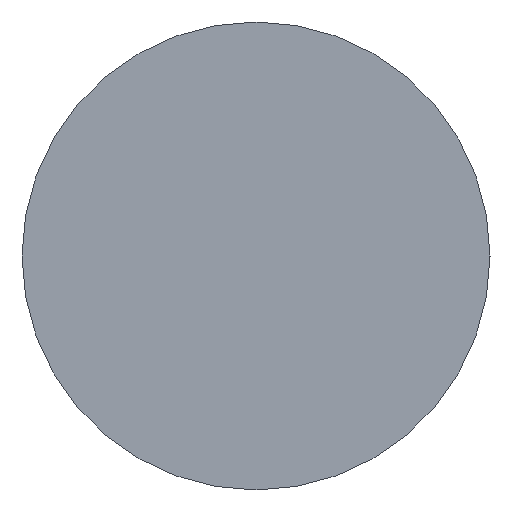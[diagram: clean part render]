
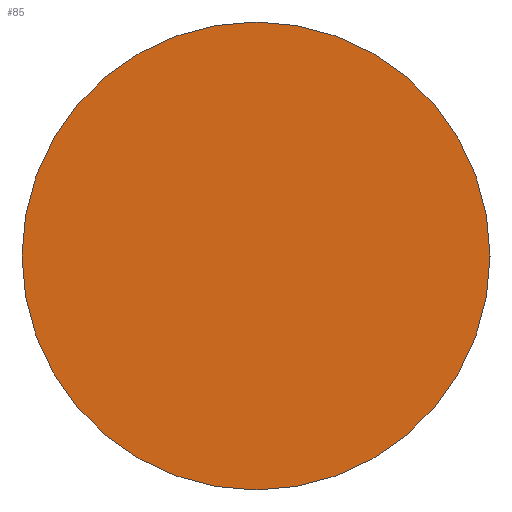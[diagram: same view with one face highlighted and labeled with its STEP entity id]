
A CAD part, left-side view. The second image highlights one B-rep face of the part: STEP entity #85.
In plain terms, the highlighted planar face has unit normal (-1, 0, 0).
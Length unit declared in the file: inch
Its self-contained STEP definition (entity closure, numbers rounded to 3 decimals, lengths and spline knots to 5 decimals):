
#10 = DIRECTION ( 'NONE',  ( -1., 0., 0. ) ) ;
#14 = DIRECTION ( 'NONE',  ( 0., 0., 1. ) ) ;
#20 = VERTEX_POINT ( 'NONE', #450 ) ;
#53 = CARTESIAN_POINT ( 'NONE',  ( -4., 0., 0.375 ) ) ;
#85 = ADVANCED_FACE ( 'NONE', ( #281 ), #93, .F. ) ;
#88 = EDGE_LOOP ( 'NONE', ( #444, #155 ) ) ;
#93 = PLANE ( 'NONE',  #196 ) ;
#98 = CARTESIAN_POINT ( 'NONE',  ( -4., 0.375, 0. ) ) ;
#155 = ORIENTED_EDGE ( 'NONE', *, *, #463, .T. ) ;
#196 = AXIS2_PLACEMENT_3D ( 'NONE', #98, #243, #248 ) ;
#202 = DIRECTION ( 'NONE',  ( -1., 0., 0. ) ) ;
#213 = DIRECTION ( 'NONE',  ( 0., 0., 1. ) ) ;
#223 = EDGE_CURVE ( 'NONE', #412, #20, #225, .T. ) ;
#225 = CIRCLE ( 'NONE', #423, 0.375 ) ;
#243 = DIRECTION ( 'NONE',  ( 1., 0., 0. ) ) ;
#248 = DIRECTION ( 'NONE',  ( 0., 0., -1. ) ) ;
#281 = FACE_OUTER_BOUND ( 'NONE', #88, .T. ) ;
#338 = CARTESIAN_POINT ( 'NONE',  ( -4., 0., 0. ) ) ;
#347 = AXIS2_PLACEMENT_3D ( 'NONE', #338, #10, #14 ) ;
#412 = VERTEX_POINT ( 'NONE', #53 ) ;
#414 = CARTESIAN_POINT ( 'NONE',  ( -4., 0., 0. ) ) ;
#423 = AXIS2_PLACEMENT_3D ( 'NONE', #414, #202, #213 ) ;
#441 = CIRCLE ( 'NONE', #347, 0.375 ) ;
#444 = ORIENTED_EDGE ( 'NONE', *, *, #223, .T. ) ;
#450 = CARTESIAN_POINT ( 'NONE',  ( -4., 0., -0.375 ) ) ;
#463 = EDGE_CURVE ( 'NONE', #20, #412, #441, .T. ) ;
